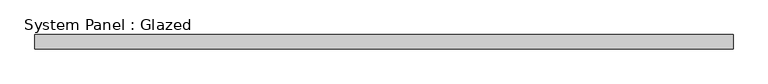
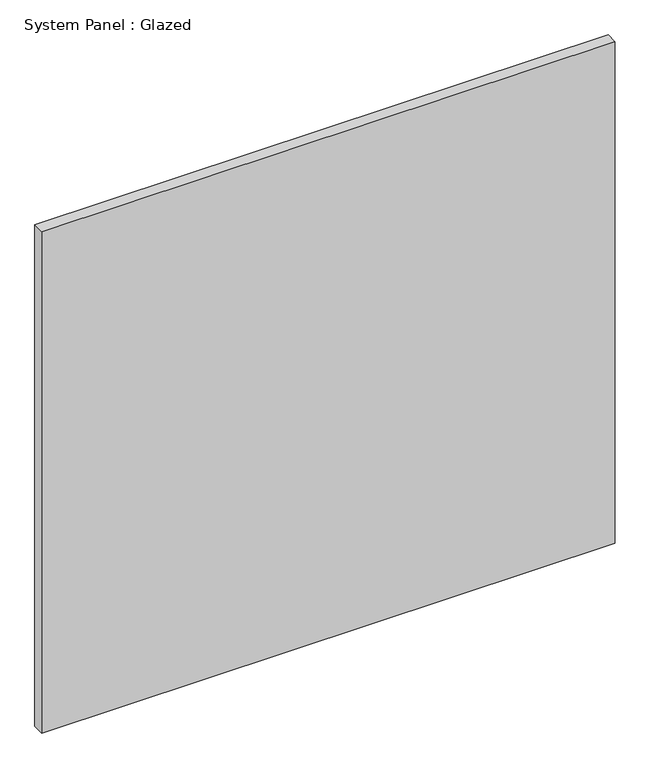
"""IFC4 building model written with IfcOpenShell, lengths in millimetres: plate geometry, System Panel : Glazed."""

from ifc_helpers import new_model, si_unit, origin, origin_with_axes, place, context, project, spatial, polyline, outline, extrude, source, transform, mapped, element, save


def system_panel_glazed_cc812e03(model_context):
    return source(origin(), model_context, "Body", "SweptSolid", [
        extrude(outline(polyline([(625.475, 19.05), (-625.475, 19.05), (-625.475, 44.45), (625.475, 44.45), (625.475, 19.05)])), origin_with_axes(), (0.0, 0.0, 1.0), 1155.7),
    ])


if __name__ == "__main__":
    model = new_model("IFC4")
    model_context = context("Model", 3, world=origin())
    ifc_project = project(units=[si_unit("LENGTHUNIT", "METRE", prefix="MILLI")], contexts=[model_context])
    site = spatial("IfcSite", under=ifc_project)
    building = spatial("IfcBuilding", under=site)
    placement = place(None, origin())
    system_panel_glazed_shape = system_panel_glazed_cc812e03(model_context)
    element("IfcPlate", 1, ObjectType="System Panel : Glazed", at=placement, inside=building, context=model_context, shape_type="MappedRepresentation", body=[
        mapped(system_panel_glazed_shape, transform((0.0, 0.0, 0.0), x_axis=(1.0, 0.0, 0.0), y_axis=(0.0, 1.0, 0.0), z_axis=(0.0, 0.0, 1.0))),
    ])
    save(model, "model.ifc")
